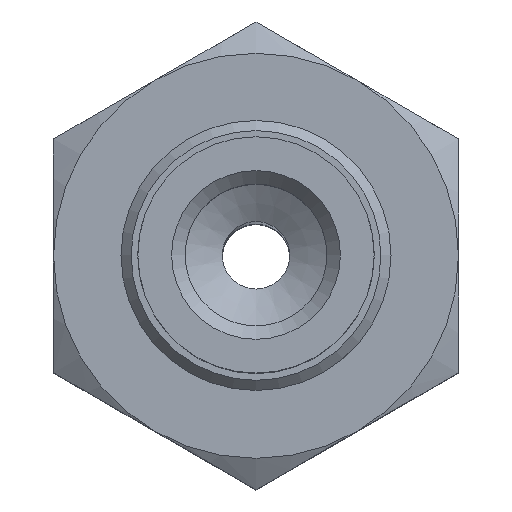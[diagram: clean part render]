
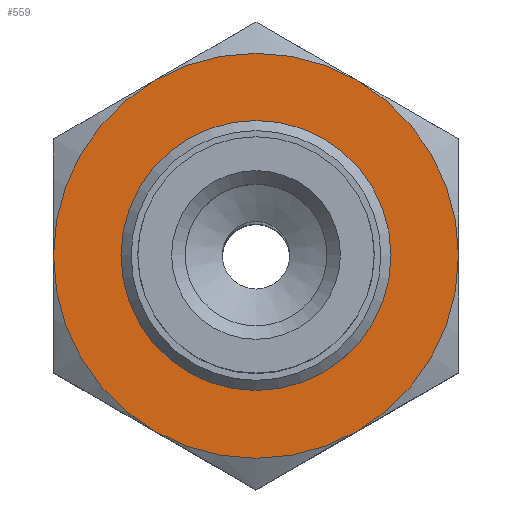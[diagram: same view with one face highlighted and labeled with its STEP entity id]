
A CAD part, top view. The second image highlights one B-rep face of the part: STEP entity #559.
In plain terms, the highlighted planar face has unit normal (0, 0, 1).
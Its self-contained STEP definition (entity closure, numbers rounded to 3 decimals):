
#559=ADVANCED_FACE('',(#791,#792),#793,.T.);
#791=FACE_BOUND('',#1140,.T.);
#792=FACE_OUTER_BOUND('',#1141,.T.);
#793=PLANE('',#1142);
#1140=EDGE_LOOP('',(#1684));
#1141=EDGE_LOOP('',(#1685,#1686,#1687,#1688,#1689,#1690));
#1142=AXIS2_PLACEMENT_3D('',#1691,#1692,#1693);
#1684=ORIENTED_EDGE('',*,*,#2330,.T.);
#1685=ORIENTED_EDGE('',*,*,#2331,.T.);
#1686=ORIENTED_EDGE('',*,*,#2332,.T.);
#1687=ORIENTED_EDGE('',*,*,#2296,.T.);
#1688=ORIENTED_EDGE('',*,*,#2318,.T.);
#1689=ORIENTED_EDGE('',*,*,#2333,.T.);
#1690=ORIENTED_EDGE('',*,*,#2328,.T.);
#1691=CARTESIAN_POINT('',(-6.928,-6.0,3.0));
#1692=DIRECTION('',(0.0,0.0,1.0));
#1693=DIRECTION('',(1.0,0.0,0.0));
#2296=EDGE_CURVE('',#2563,#2554,#2564,.T.);
#2318=EDGE_CURVE('',#2554,#2600,#2602,.T.);
#2328=EDGE_CURVE('',#2578,#2569,#2615,.T.);
#2330=EDGE_CURVE('',#2617,#2617,#2618,.T.);
#2331=EDGE_CURVE('',#2569,#2596,#2619,.T.);
#2332=EDGE_CURVE('',#2596,#2563,#2620,.T.);
#2333=EDGE_CURVE('',#2600,#2578,#2621,.T.);
#2554=VERTEX_POINT('',#2947);
#2563=VERTEX_POINT('',#2969);
#2564=CIRCLE('',#2970,6.0);
#2569=VERTEX_POINT('',#2980);
#2578=VERTEX_POINT('',#3002);
#2596=VERTEX_POINT('',#3046);
#2600=VERTEX_POINT('',#3058);
#2602=CIRCLE('',#3064,6.0);
#2615=CIRCLE('',#3093,6.0);
#2617=VERTEX_POINT('',#3095);
#2618=CIRCLE('',#3096,3.925);
#2619=CIRCLE('',#3097,6.0);
#2620=CIRCLE('',#3098,6.0);
#2621=CIRCLE('',#3099,6.0);
#2947=CARTESIAN_POINT('',(-5.196,3.0,3.0));
#2969=CARTESIAN_POINT('',(0.,6.0,3.0));
#2970=AXIS2_PLACEMENT_3D('',#3590,#3591,#3592);
#2980=CARTESIAN_POINT('',(5.196,-3.0,3.0));
#3002=CARTESIAN_POINT('',(0.,-6.0,3.0));
#3046=CARTESIAN_POINT('',(5.196,3.0,3.0));
#3058=CARTESIAN_POINT('',(-5.196,-3.0,3.0));
#3064=AXIS2_PLACEMENT_3D('',#3603,#3604,#3605);
#3093=AXIS2_PLACEMENT_3D('',#3618,#3619,#3620);
#3095=CARTESIAN_POINT('',(3.925,0.0,3.0));
#3096=AXIS2_PLACEMENT_3D('',#3624,#3625,#3626);
#3097=AXIS2_PLACEMENT_3D('',#3627,#3628,#3629);
#3098=AXIS2_PLACEMENT_3D('',#3630,#3631,#3632);
#3099=AXIS2_PLACEMENT_3D('',#3633,#3634,#3635);
#3590=CARTESIAN_POINT('',(0.,0.0,3.0));
#3591=DIRECTION('',(0.0,0.,1.0));
#3592=DIRECTION('',(0.0,-1.0,0.));
#3603=CARTESIAN_POINT('',(0.,0.0,3.0));
#3604=DIRECTION('',(0.0,0.,1.0));
#3605=DIRECTION('',(0.0,-1.0,0.));
#3618=CARTESIAN_POINT('',(0.,0.0,3.0));
#3619=DIRECTION('',(0.0,0.,1.0));
#3620=DIRECTION('',(0.0,-1.0,0.));
#3624=CARTESIAN_POINT('',(0.0,0.0,3.0));
#3625=DIRECTION('',(0.0,0.0,-1.0));
#3626=DIRECTION('',(1.0,0.0,0.0));
#3627=CARTESIAN_POINT('',(0.,0.0,3.0));
#3628=DIRECTION('',(0.0,0.,1.0));
#3629=DIRECTION('',(0.0,-1.0,0.));
#3630=CARTESIAN_POINT('',(0.,0.0,3.0));
#3631=DIRECTION('',(0.0,0.,1.0));
#3632=DIRECTION('',(0.0,-1.0,0.));
#3633=CARTESIAN_POINT('',(0.,0.0,3.0));
#3634=DIRECTION('',(0.0,0.,1.0));
#3635=DIRECTION('',(0.0,-1.0,0.));
